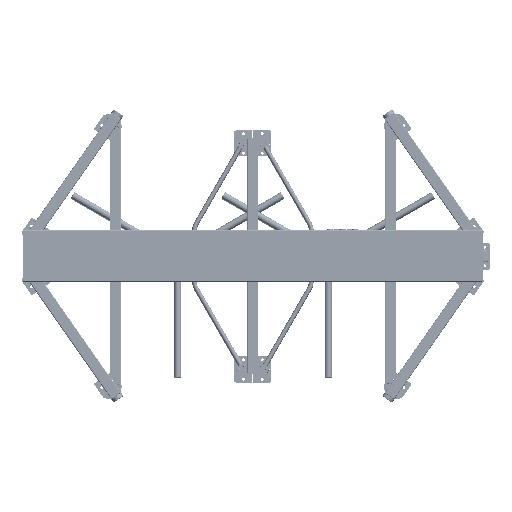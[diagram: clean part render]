
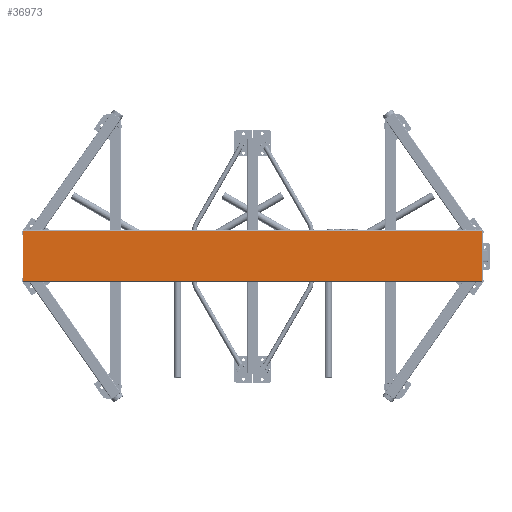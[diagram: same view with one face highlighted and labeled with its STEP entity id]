
A CAD part, top view. The second image highlights one B-rep face of the part: STEP entity #36973.
In plain terms, the highlighted planar face has unit normal (0, 0, 1) as drawn and (0, 1, 0) by its records, which use the part's own axes.
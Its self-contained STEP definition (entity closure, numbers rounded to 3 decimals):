
#5874=LINE('',#65325,#8577);
#5875=LINE('',#65328,#8578);
#5876=LINE('',#65330,#8579);
#5877=LINE('',#65332,#8580);
#8577=VECTOR('',#50926,1000.);
#8578=VECTOR('',#50927,1000.);
#8579=VECTOR('',#50928,1000.);
#8580=VECTOR('',#50929,1000.);
#14620=ORIENTED_EDGE('',*,*,#21724,.F.);
#14621=ORIENTED_EDGE('',*,*,#21725,.F.);
#14622=ORIENTED_EDGE('',*,*,#21726,.T.);
#14623=ORIENTED_EDGE('',*,*,#21727,.T.);
#21724=EDGE_CURVE('',#25789,#25790,#5874,.T.);
#21725=EDGE_CURVE('',#25791,#25789,#5875,.T.);
#21726=EDGE_CURVE('',#25791,#25792,#5876,.T.);
#21727=EDGE_CURVE('',#25792,#25790,#5877,.T.);
#25789=VERTEX_POINT('',#65326);
#25790=VERTEX_POINT('',#65327);
#25791=VERTEX_POINT('',#65329);
#25792=VERTEX_POINT('',#65331);
#29562=EDGE_LOOP('',(#14620,#14621,#14622,#14623));
#33160=FACE_BOUND('',#29562,.T.);
#35338=PLANE('',#43291);
#36973=ADVANCED_FACE('',(#33160),#35338,.T.);
#43291=AXIS2_PLACEMENT_3D('',#65324,#50924,#50925);
#50924=DIRECTION('',(0.,1.,0.));
#50925=DIRECTION('',(-1.,0.,0.));
#50926=DIRECTION('',(1.,0.,0.));
#50927=DIRECTION('',(0.,0.,-1.));
#50928=DIRECTION('',(1.,0.,0.));
#50929=DIRECTION('',(0.,0.,-1.));
#65324=CARTESIAN_POINT('',(-134.,0.,1233.));
#65325=CARTESIAN_POINT('',(-134.,0.,-1233.));
#65326=CARTESIAN_POINT('',(-134.,0.,-1233.));
#65327=CARTESIAN_POINT('',(134.,0.,-1233.));
#65328=CARTESIAN_POINT('',(-134.,0.,1233.));
#65329=CARTESIAN_POINT('',(-134.,0.,1233.));
#65330=CARTESIAN_POINT('',(-134.,0.,1233.));
#65331=CARTESIAN_POINT('',(134.,0.,1233.));
#65332=CARTESIAN_POINT('',(134.,0.,1233.));
